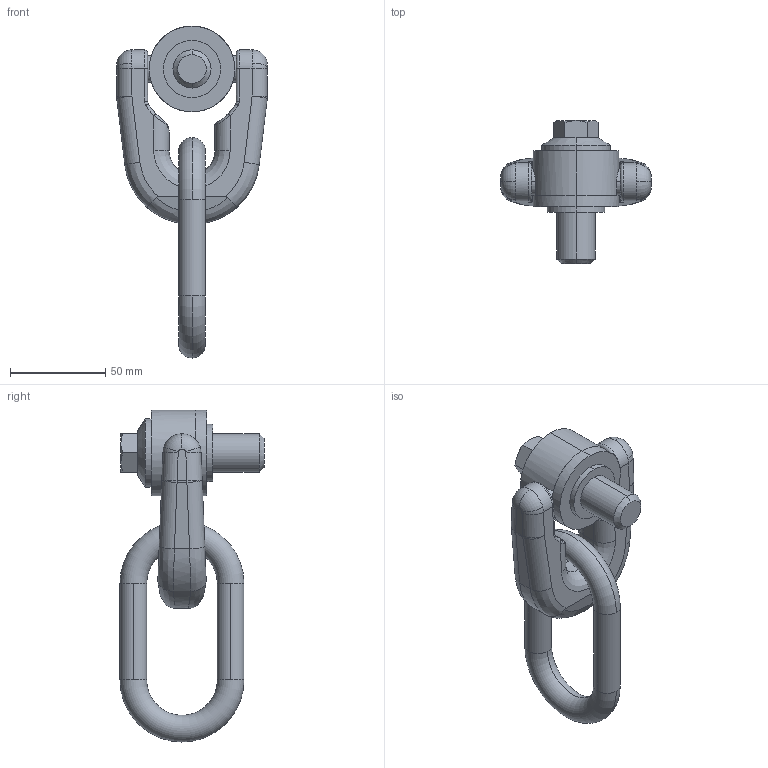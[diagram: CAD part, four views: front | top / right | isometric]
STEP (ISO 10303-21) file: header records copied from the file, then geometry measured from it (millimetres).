
FILE_DESCRIPTION (( 'STEP AP203' ), '1' );
FILE_NAME ('Default.step', '2013-12-13T11:50:14', ( 'User' ), ( '' ), 'SwSTEP 2.0', 'SolidWorks 2009', '' );
FILE_SCHEMA (( 'CONFIG_CONTROL_DESIGN' ));
Length unit declared in the file: millimetre
Products named in the file (4): Default; Part2B; Part1; Part3
Assembly tree (3 placements, depth 2):
  Default
    Part2B
    Part1
    Part3
Bounding box: 79 x 75.5 x 174 mm (x, y, z)
Volume: 183762.8 mm3; surface area: 39297 mm2
Topology: 3 solids, 3 shells, 136 faces, 323 edges, 194 vertices
Faces by surface type: cylinder 43, plane 34, bspline 33, torus 12, cone 10, sphere 4
Entity records: 6016 total; most frequent: CARTESIAN_POINT 2697, ORIENTED_EDGE 642, DIRECTION 590, EDGE_CURVE 321, AXIS2_PLACEMENT_3D 240, VERTEX_POINT 194, EDGE_LOOP 143, ADVANCED_FACE 136
